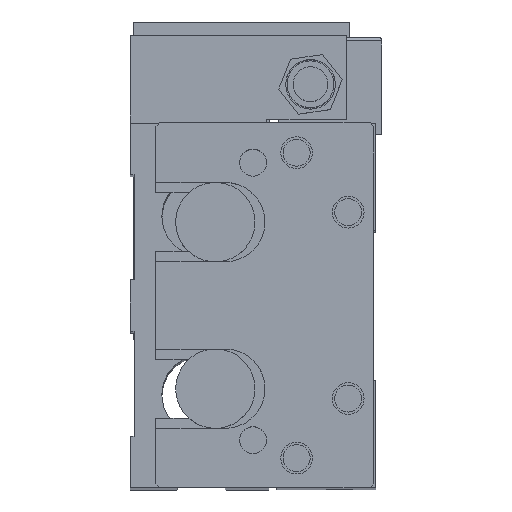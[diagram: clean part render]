
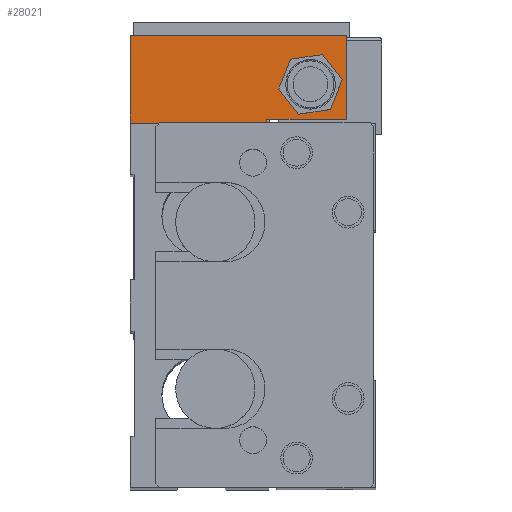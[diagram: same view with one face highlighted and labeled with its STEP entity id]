
A CAD part, top view. The second image highlights one B-rep face of the part: STEP entity #28021.
In plain terms, the highlighted planar face has unit normal (0, 0, 1) as drawn and (0, 0, -1) by its records, which use the part's own axes.
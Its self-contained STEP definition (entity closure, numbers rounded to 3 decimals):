
#2687 = DIRECTION ( 'NONE',  ( -1., 0., 0. ) ) ;
#2688 = DIRECTION ( 'NONE',  ( 0., 0., -1. ) ) ;
#2693 = CARTESIAN_POINT ( 'NONE',  ( 0., 54.5, 0. ) ) ;
#2694 = DIRECTION ( 'NONE',  ( -1., 0., 0. ) ) ;
#2695 = VECTOR ( 'NONE', #2694, 1000. ) ;
#2696 = CARTESIAN_POINT ( 'NONE',  ( 3.5, 34.5, 0. ) ) ;
#2697 = FACE_BOUND ( 'NONE', #28081, .T. ) ;
#2698 = FACE_OUTER_BOUND ( 'NONE', #28095, .T. ) ;
#2707 = LINE ( 'NONE', #2696, #2695 ) ;
#2709 = PLANE ( 'NONE',  #2715 ) ;
#2714 = CARTESIAN_POINT ( 'NONE',  ( 24.5, 0., 0. ) ) ;
#2715 = AXIS2_PLACEMENT_3D ( 'NONE', #2693, #2688, #2687 ) ;
#2722 = DIRECTION ( 'NONE',  ( 1., 0., 0. ) ) ;
#2723 = DIRECTION ( 'NONE',  ( 0., 0., 1. ) ) ;
#2727 = CIRCLE ( 'NONE', #2730, 6.25 ) ;
#2730 = AXIS2_PLACEMENT_3D ( 'NONE', #2733, #2723, #2722 ) ;
#2733 = CARTESIAN_POINT ( 'NONE',  ( 12.25, 45.5, 0. ) ) ;
#2748 = CARTESIAN_POINT ( 'NONE',  ( 3.5, 34.5, 0. ) ) ;
#2754 = DIRECTION ( 'NONE',  ( 0., -1., 0. ) ) ;
#2755 = VECTOR ( 'NONE', #2754, 1000. ) ;
#2760 = LINE ( 'NONE', #2772, #2755 ) ;
#2772 = CARTESIAN_POINT ( 'NONE',  ( 3.5, 54.5, 0. ) ) ;
#24618 = CARTESIAN_POINT ( 'NONE',  ( 24.5, 54.5, 0. ) ) ;
#24791 = DIRECTION ( 'NONE',  ( 1., 0., 0. ) ) ;
#24792 = DIRECTION ( 'NONE',  ( 0., 0., 1. ) ) ;
#24793 = CARTESIAN_POINT ( 'NONE',  ( 6., 45.5, 0. ) ) ;
#24795 = AXIS2_PLACEMENT_3D ( 'NONE', #24811, #24792, #24791 ) ;
#24808 = CIRCLE ( 'NONE', #24795, 6.25 ) ;
#24811 = CARTESIAN_POINT ( 'NONE',  ( 12.25, 45.5, 0. ) ) ;
#24818 = CARTESIAN_POINT ( 'NONE',  ( 18.5, 45.5, 0. ) ) ;
#24855 = CARTESIAN_POINT ( 'NONE',  ( 0., 54.5, 0. ) ) ;
#24856 = LINE ( 'NONE', #24855, #24912 ) ;
#24878 = CARTESIAN_POINT ( 'NONE',  ( 0., 34.5, 0. ) ) ;
#24883 = CARTESIAN_POINT ( 'NONE',  ( 24.5, 0., 0. ) ) ;
#24884 = LINE ( 'NONE', #24883, #24941 ) ;
#24901 = CARTESIAN_POINT ( 'NONE',  ( 3.5, 54.5, 0. ) ) ;
#24911 = DIRECTION ( 'NONE',  ( -1., 0., 0. ) ) ;
#24912 = VECTOR ( 'NONE', #24911, 1000. ) ;
#24914 = CARTESIAN_POINT ( 'NONE',  ( 0., 0., 0. ) ) ;
#24915 = LINE ( 'NONE', #24914, #24960 ) ;
#24922 = DIRECTION ( 'NONE',  ( 1., 0., 0. ) ) ;
#24923 = VECTOR ( 'NONE', #24922, 1000. ) ;
#24924 = CARTESIAN_POINT ( 'NONE',  ( 0., 0., 0. ) ) ;
#24925 = LINE ( 'NONE', #24924, #24923 ) ;
#24940 = DIRECTION ( 'NONE',  ( 0., 1., 0. ) ) ;
#24941 = VECTOR ( 'NONE', #24940, 1000. ) ;
#24959 = DIRECTION ( 'NONE',  ( 0., -1., 0. ) ) ;
#24960 = VECTOR ( 'NONE', #24959, 1000. ) ;
#24976 = CARTESIAN_POINT ( 'NONE',  ( 0., 0., 0. ) ) ;
#27845 = VERTEX_POINT ( 'NONE', #24618 ) ;
#27912 = VERTEX_POINT ( 'NONE', #24818 ) ;
#27921 = EDGE_CURVE ( 'NONE', #27923, #27912, #24808, .T. ) ;
#27923 = VERTEX_POINT ( 'NONE', #24793 ) ;
#27944 = VERTEX_POINT ( 'NONE', #24878 ) ;
#27960 = EDGE_CURVE ( 'NONE', #27845, #27973, #24856, .T. ) ;
#27973 = VERTEX_POINT ( 'NONE', #24901 ) ;
#27975 = EDGE_CURVE ( 'NONE', #28014, #27845, #24884, .T. ) ;
#27983 = EDGE_CURVE ( 'NONE', #27994, #28014, #24925, .T. ) ;
#27994 = VERTEX_POINT ( 'NONE', #24976 ) ;
#27999 = EDGE_CURVE ( 'NONE', #27944, #27994, #24915, .T. ) ;
#28014 = VERTEX_POINT ( 'NONE', #2714 ) ;
#28019 = EDGE_CURVE ( 'NONE', #28037, #27944, #2707, .T. ) ;
#28021 = ADVANCED_FACE ( 'NONE', ( #2698, #2697 ), #2709, .T. ) ;
#28022 = ORIENTED_EDGE ( 'NONE', *, *, #27960, .F. ) ;
#28026 = ORIENTED_EDGE ( 'NONE', *, *, #28050, .F. ) ;
#28033 = EDGE_CURVE ( 'NONE', #27912, #27923, #2727, .T. ) ;
#28035 = ORIENTED_EDGE ( 'NONE', *, *, #28019, .F. ) ;
#28037 = VERTEX_POINT ( 'NONE', #2748 ) ;
#28050 = EDGE_CURVE ( 'NONE', #27973, #28037, #2760, .T. ) ;
#28073 = ORIENTED_EDGE ( 'NONE', *, *, #27999, .F. ) ;
#28077 = ORIENTED_EDGE ( 'NONE', *, *, #28033, .T. ) ;
#28078 = ORIENTED_EDGE ( 'NONE', *, *, #27975, .F. ) ;
#28080 = ORIENTED_EDGE ( 'NONE', *, *, #27983, .F. ) ;
#28081 = EDGE_LOOP ( 'NONE', ( #28077, #28084 ) ) ;
#28084 = ORIENTED_EDGE ( 'NONE', *, *, #27921, .T. ) ;
#28095 = EDGE_LOOP ( 'NONE', ( #28035, #28026, #28022, #28078, #28080, #28073 ) ) ;
